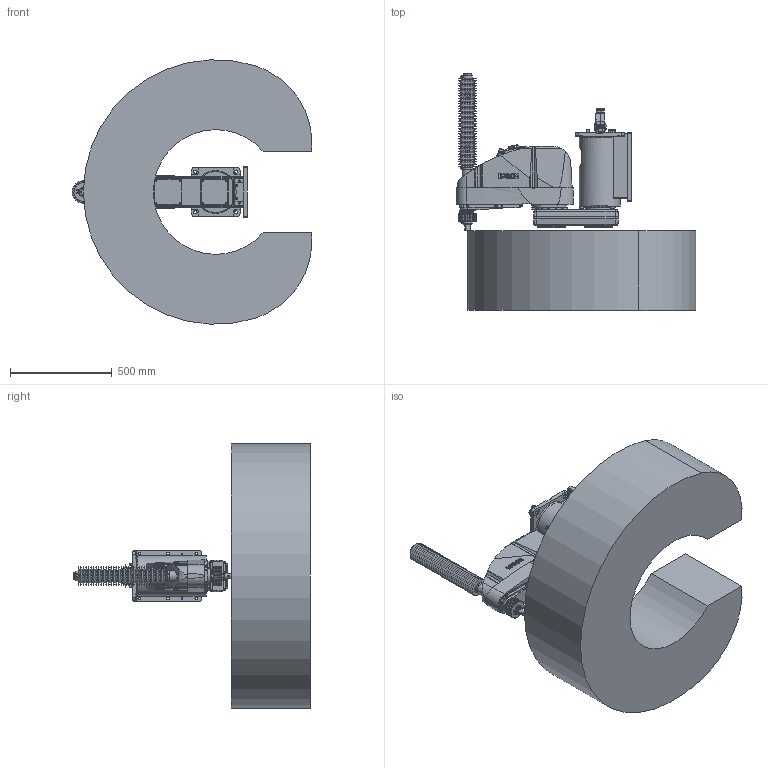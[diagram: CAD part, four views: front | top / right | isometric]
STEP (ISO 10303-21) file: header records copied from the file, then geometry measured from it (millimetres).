
FILE_DESCRIPTION( ( 'STEP AP214' ), '1' );
FILE_NAME( 'C:/Users/9607552/Desktop/GX10-B654CW_straight.stp', '2023-08-01T09:09:08', ( '' ), ( '' ), ' ', 'PARTsolutions', ' ' );
FILE_SCHEMA( ( 'AUTOMOTIVE_DESIGN { 1 0 10303 214 1 1 1 1 }' ) );
Length unit declared in the file: millimetre
Products named in the file (7): GX10-B654CWS-W; _Base cw; _Straight-B; _J1 Arm GX10-250 r/w; _J2 Arm GX10-c; _J3 Arm GX10-c (4); _GX10_20B-27_4
Assembly tree (6 placements, depth 2):
  GX10-B654CWS-W
    _Base cw
    _Straight-B
    _J1 Arm GX10-250 r/w
    _J2 Arm GX10-c
    _J3 Arm GX10-c (4)
    _GX10_20B-27_4
Bounding box: 1177.46 x 1164 x 1298.81 mm (x, y, z)
Volume: 365643747.8 mm3; surface area: 5923483.9 mm2
Topology: 6 solids, 6 shells, 2614 faces, 6418 edges, 4148 vertices
Faces by surface type: plane 1311, cylinder 763, cone 432, torus 70, bspline 37, sphere 1
Full cylindrical faces by diameter (mm): 1.18 x55, 2.5 x2, 3 x32, 3.242 x10, 3.3 x9, 4 x2, 4.2 x2, 4.8 x4, 5.1 x4, 5.34 x4, 5.5 x12, 6 x4, 6.2 x2, 6.647 x2, 6.8 x2, 7 x19, 7.5 x1, 7.59 x4, 8 x4, 8.5 x2, 9 x4, 10 x32, 10.5 x3, 11 x14, 12 x7, 12.25 x1, 13 x8, 14 x20, 14.25 x1, 16 x7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
Entity records: 98012 total; most frequent: CARTESIAN_POINT 18146, DIRECTION 12250, ORIENTED_EDGE 11156, EDGE_CURVE 5578, AXIS2_PLACEMENT_3D 4718, VERTEX_POINT 4040, EDGE_LOOP 3723, FACE_OUTER_BOUND 2979
